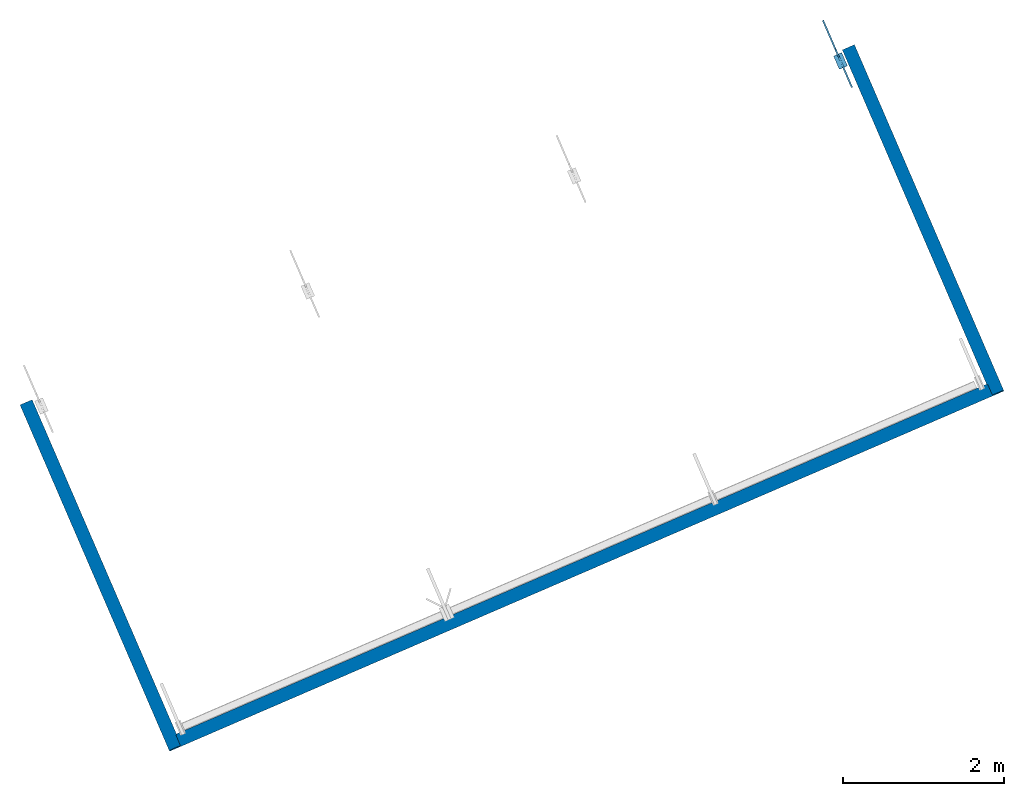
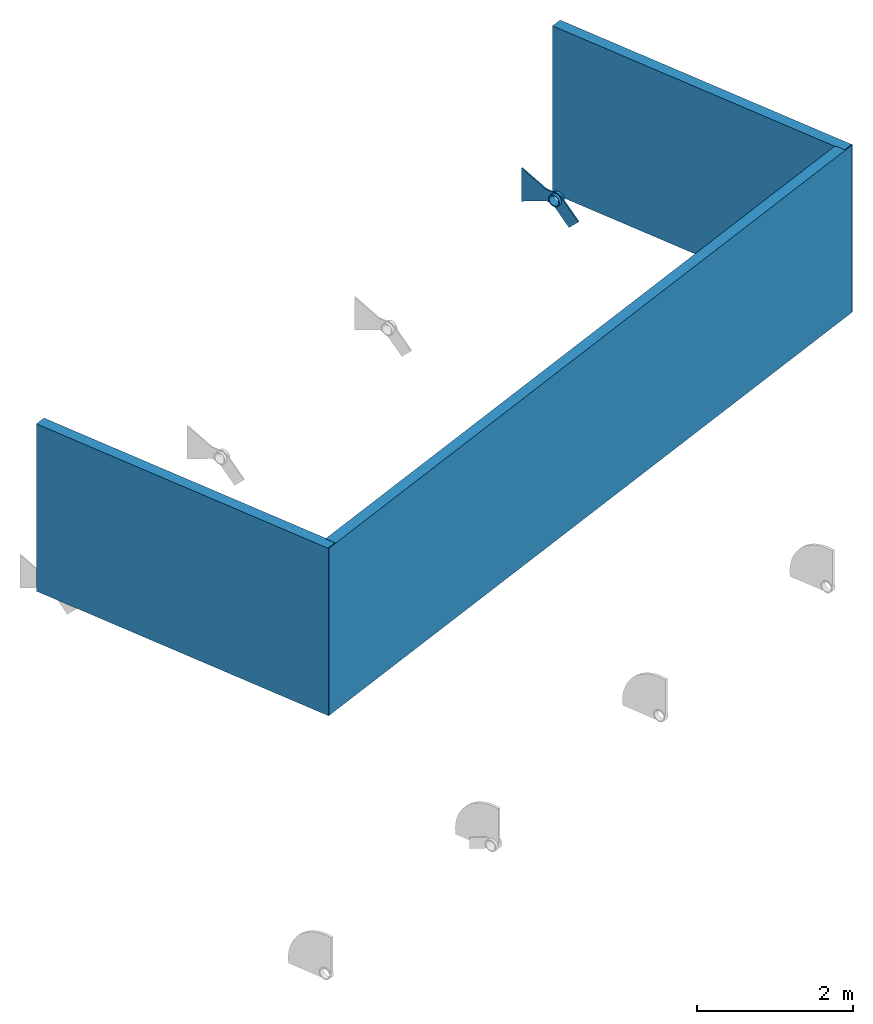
# One storey, part 4 of 5: 3 walls, 1 member.
"""IFC4 building model written with IfcOpenShell, lengths in metres."""

from ifc_helpers import new_model, entity, si_unit, converted_unit, derived_unit, direction, frame, origin, place, context, subcontext, project, spatial, indexed_curve, outline, extrude, polygons, source, transform, mapped, material, constituent, constituent_set, type_object, type_shapes, element, save


model = new_model("IFC4")

# Units and contexts
model_context = context("Model", 3, precision=1e-05, world=origin(), true_north=direction((6.12323399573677e-17, 1.0)))
body_context = subcontext(model_context, "Body", "Model", "MODEL_VIEW")
ifc_project = project(units=[si_unit("LENGTHUNIT", "METRE"), si_unit("AREAUNIT", "SQUARE_METRE"), si_unit("VOLUMEUNIT", "CUBIC_METRE"), converted_unit("PLANEANGLEUNIT", "DEGREE", entity("IfcPlaneAngleMeasure", 0.0174532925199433), si_unit("PLANEANGLEUNIT", "RADIAN"), dimensions=[0, 0, 0, 0, 0, 0, 0]), si_unit("MASSUNIT", "GRAM", prefix="KILO"), derived_unit("MOMENTOFINERTIAUNIT", [(si_unit("LENGTHUNIT", "METRE"), 4)]), derived_unit("LINEARFORCEUNIT", [(si_unit("MASSUNIT", "GRAM", prefix="KILO"), 1), (si_unit("TIMEUNIT", "SECOND"), -2)]), derived_unit("THERMALTRANSMITTANCEUNIT", [(si_unit("MASSUNIT", "GRAM", prefix="KILO"), 1), (si_unit("THERMODYNAMICTEMPERATUREUNIT", "KELVIN"), -1), (si_unit("TIMEUNIT", "SECOND"), -3)]), derived_unit("USERDEFINED", [(si_unit("MASSUNIT", "GRAM", prefix="KILO"), 1), (si_unit("TIMEUNIT", "SECOND"), -2), (si_unit("THERMODYNAMICTEMPERATUREUNIT", "KELVIN"), -1)]), derived_unit("THERMALRESISTANCEUNIT", [(si_unit("MASSUNIT", "GRAM", prefix="KILO"), -1), (si_unit("TIMEUNIT", "SECOND"), 3), (si_unit("THERMODYNAMICTEMPERATUREUNIT", "KELVIN"), 1)])], contexts=[model_context])

# Site, building, storey
site_placement = place(None, origin())
site = spatial("IfcSite", under=ifc_project, at=site_placement, Name="Default", CompositionType="ELEMENT")
building_placement = place(site_placement, frame((4.92348780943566, -84.5603392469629, 320.975), z_axis=(0.0, 0.0, 1.0), x_axis=(-0.396377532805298, 0.918087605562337, 0.0)))
building = spatial("IfcBuilding", under=site, at=building_placement, CompositionType="ELEMENT")
storey_placement = place(building_placement, frame((0.0, 0.0, 4.25)))
storey = spatial("IfcBuildingStorey", under=building, at=storey_placement, Name="Level 2", CompositionType="ELEMENT", Elevation=4.25)

# Member
ifc_material_1 = material(Name="<Unnamed>")
member_type = type_object("IfcMemberType", Name="Union Metalica 3:Union Metalica 3", PredefinedType="PLATE", material=ifc_material_1)
shared_shape = source(origin(), body_context, "Body", "Tessellation", [
    polygons([(-0.0550000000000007, -0.075, -2.42331686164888e-16), (-0.0550000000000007, -0.0724444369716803, 0.0194114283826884), (-0.0550000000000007, -0.0649519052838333, 0.0374999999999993), (-0.0550000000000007, -0.0530330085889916, 0.0530330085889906), (-0.0550000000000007, -0.0375000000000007, 0.0649519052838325), (-0.0550000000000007, -0.0194114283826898, 0.0724444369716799), (-0.0550000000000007, -8.1313785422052e-16, 0.075), (-0.0550000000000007, 0.0194114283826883, 0.0724444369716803), (-0.0550000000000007, 0.0374999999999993, 0.0649519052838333), (-0.0550000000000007, 0.0530330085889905, 0.0530330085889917), (-0.0550000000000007, 0.0649519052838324, 0.0375000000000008), (-0.0550000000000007, 0.0724444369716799, 0.01941142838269), (-0.0550000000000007, 0.075, 4.84663372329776e-16), (-0.010000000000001, 0.075, 5.51276753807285e-16), (-0.010000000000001, 0.07244443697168, 0.0194114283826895), (-0.010000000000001, 0.0649519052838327, 0.0375000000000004), (-0.010000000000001, 0.0530330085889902, 0.053033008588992), (-0.010000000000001, 0.039177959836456, 0.0639537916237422), (-0.010000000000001, 0.0231660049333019, 0.0713325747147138), (-0.010000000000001, 0.00587499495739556, 0.0747695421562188), (-0.010000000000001, -0.0117379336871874, 0.0740757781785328), (-0.010000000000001, -0.0287012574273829, 0.069290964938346), (-0.010000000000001, -0.0440795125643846, 0.0606794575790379), (-0.010000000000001, -0.0570242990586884, 0.0487158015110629), (-0.010000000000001, -0.06682058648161, 0.0340589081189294), (-0.010000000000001, -0.0729258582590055, 0.0175162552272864), (-0.010000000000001, -0.075, -2.09024995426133e-16), (-0.0550000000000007, -0.09, 2.90798023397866e-16), (-0.0550000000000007, -0.0869333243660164, -0.023293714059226), (-0.0550000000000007, -0.0779422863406, -0.0449999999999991), (-0.0550000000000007, -0.0636396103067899, -0.0636396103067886), (-0.0550000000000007, -0.0450000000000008, -0.077942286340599), (-0.0550000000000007, -0.0232937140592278, -0.0869333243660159), (-0.0550000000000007, -9.75765425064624e-16, -0.09), (-0.0550000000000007, 0.0232937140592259, -0.0869333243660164), (-0.0550000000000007, 0.0449999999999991, -0.0779422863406), (-0.0550000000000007, 0.0636396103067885, -0.06363961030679), (-0.0550000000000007, 0.0779422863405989, -0.045000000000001), (-0.0550000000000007, 0.0869333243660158, -0.0232937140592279), (-0.0550000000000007, 0.09, -5.81596046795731e-16), (-0.010000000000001, 0.09, -1.14114845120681e-15), (-0.010000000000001, 0.0873808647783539, -0.0215542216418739), (-0.010000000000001, 0.079677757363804, -0.0418503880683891), (-0.010000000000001, 0.0673410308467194, -0.0597091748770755), (-0.010000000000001, 0.0510895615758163, -0.0740935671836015), (-0.010000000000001, 0.0318689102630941, -0.0841687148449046), (-0.010000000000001, 0.0107964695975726, -0.0893500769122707), (-0.010000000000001, -0.0108991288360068, -0.0893376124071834), (-0.010000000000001, -0.0319573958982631, -0.0841351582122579), (-0.010000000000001, -0.0511587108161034, -0.0740458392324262), (-0.010000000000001, -0.0673877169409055, -0.0596564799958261), (-0.010000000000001, -0.0797022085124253, -0.041803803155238), (-0.010000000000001, -0.0873879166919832, -0.0215256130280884), (-0.010000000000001, -0.09, 2.5082999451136e-16), (-0.0550000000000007, 0.0869333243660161, 0.0232937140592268), (-0.0550000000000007, 0.0779422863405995, 0.045), (-0.0550000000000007, 0.0636396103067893, 0.0636396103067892), (-0.0550000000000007, 0.0450000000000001, 0.0779422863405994), (-0.0550000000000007, 0.023293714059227, 0.0869333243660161), (-0.0550000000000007, 1.2541499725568e-16, 0.09), (-0.0550000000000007, -0.0232937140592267, 0.0869333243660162), (-0.0550000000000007, -0.0449999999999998, 0.0779422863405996), (-0.0550000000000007, -0.0636396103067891, 0.0636396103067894), (-0.0550000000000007, -0.0779422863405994, 0.0450000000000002), (-0.0550000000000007, -0.0869333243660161, 0.0232937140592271), (-0.010000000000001, -0.0873808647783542, 0.0215542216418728), (-0.010000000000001, -0.0796777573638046, 0.0418503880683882), (-0.010000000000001, -0.0673410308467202, 0.0597091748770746), (-0.010000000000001, -0.0510895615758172, 0.0740935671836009), (-0.010000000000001, -0.0318689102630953, 0.0841687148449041), (-0.010000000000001, -0.0107964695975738, 0.0893500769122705), (-0.010000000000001, 0.0108991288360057, 0.0893376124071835), (-0.010000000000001, 0.0319573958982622, 0.0841351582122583), (-0.010000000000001, 0.0511587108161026, 0.0740458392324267), (-0.010000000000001, 0.0673877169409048, 0.0596564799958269), (-0.010000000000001, 0.0797022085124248, 0.0418038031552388), (-0.010000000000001, 0.0873879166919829, 0.0215256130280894), (-0.0550000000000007, 0.0724444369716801, -0.019411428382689), (-0.0550000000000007, 0.0649519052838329, -0.0375), (-0.0550000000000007, 0.0530330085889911, -0.053033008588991), (-0.0550000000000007, 0.0375000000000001, -0.0649519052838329), (-0.0550000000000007, 0.0194114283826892, -0.0724444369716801), (-0.0550000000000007, 1.04512497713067e-16, -0.075), (-0.0550000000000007, -0.019411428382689, -0.0724444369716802), (-0.0550000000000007, -0.0374999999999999, -0.064951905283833), (-0.0550000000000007, -0.0530330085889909, -0.0530330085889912), (-0.0550000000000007, -0.0649519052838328, -0.0375000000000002), (-0.0550000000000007, -0.0724444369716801, -0.0194114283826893), (-0.010000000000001, -0.0724444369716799, -0.0194114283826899), (-0.010000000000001, -0.0649519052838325, -0.0375000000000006), (-0.010000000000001, -0.053033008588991, -0.0530330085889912), (-0.010000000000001, -0.0391779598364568, -0.0639537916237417), (-0.010000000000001, -0.0231660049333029, -0.0713325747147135), (-0.010000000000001, -0.0058749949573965, -0.0747695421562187), (-0.010000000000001, 0.0117379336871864, -0.0740757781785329), (-0.010000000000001, 0.0287012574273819, -0.0692909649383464), (-0.010000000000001, 0.0440795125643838, -0.0606794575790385), (-0.010000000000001, 0.0570242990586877, -0.0487158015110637), (-0.010000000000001, 0.0668205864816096, -0.0340589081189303), (-0.010000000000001, 0.0729258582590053, -0.0175162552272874), (0.00999999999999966, -0.357088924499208, -0.20859650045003), (0.00999999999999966, -0.208596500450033, -0.357088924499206), (0.00999999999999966, 0.0584924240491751, -0.0899999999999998), (0.00999999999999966, 0.16, -0.0899999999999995), (0.00999999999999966, 0.55, -0.26), (0.00999999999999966, 0.55, 0.26), (0.00999999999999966, 0.16, 0.0899999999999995), (0.00999999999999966, 0.0540832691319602, 0.0899999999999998), (0.00999999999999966, 0.0330234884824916, 0.099671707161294), (0.00999999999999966, 0.0103677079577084, 0.104486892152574), (0.00999999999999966, -0.0127869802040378, 0.104218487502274), (0.00999999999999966, -0.0353212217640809, 0.0988807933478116), (0.00999999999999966, -0.0561366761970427, 0.0887337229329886), (0.00999999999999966, -0.0742462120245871, 0.0742462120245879), (0.00999999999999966, -0.09, -2.03037586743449e-16), (0.00999999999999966, -0.0873808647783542, 0.0215542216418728), (0.00999999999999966, -0.0796777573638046, 0.0418503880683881), (0.00999999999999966, -0.0673410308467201, 0.0597091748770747), (0.00999999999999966, -0.0510895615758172, 0.0740935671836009), (0.00999999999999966, -0.0318689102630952, 0.0841687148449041), (0.00999999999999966, -0.0107964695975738, 0.0893500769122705), (0.00999999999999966, 0.0108991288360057, 0.0893376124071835), (0.00999999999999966, 0.0319573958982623, 0.0841351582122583), (0.00999999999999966, 0.0511587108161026, 0.0740458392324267), (0.00999999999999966, 0.0673877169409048, 0.0596564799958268), (0.00999999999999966, 0.0797022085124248, 0.0418038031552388), (0.00999999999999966, 0.0873879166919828, 0.0215256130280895), (0.00999999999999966, 0.0900000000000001, -5.41433564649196e-16), (0.00999999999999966, 0.087380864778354, -0.0215542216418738), (0.00999999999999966, 0.079677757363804, -0.0418503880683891), (0.00999999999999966, 0.0673410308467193, -0.0597091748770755), (0.00999999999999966, 0.0510895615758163, -0.0740935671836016), (0.00999999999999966, 0.0318689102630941, -0.0841687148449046), (0.00999999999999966, 0.0107964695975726, -0.0893500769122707), (0.00999999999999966, -0.0108991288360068, -0.0893376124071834), (0.00999999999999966, -0.0319573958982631, -0.0841351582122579), (0.00999999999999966, -0.0511587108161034, -0.0740458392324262), (0.00999999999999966, -0.0673877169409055, -0.0596564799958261), (0.00999999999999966, -0.0797022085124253, -0.041803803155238), (0.00999999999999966, -0.0873879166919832, -0.0215256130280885), (-0.010000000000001, -0.357088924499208, -0.20859650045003), (-0.010000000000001, -0.0742462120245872, 0.0742462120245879), (-0.010000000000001, -0.0561366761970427, 0.0887337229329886), (-0.010000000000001, -0.035321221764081, 0.0988807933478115), (-0.010000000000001, -0.0127869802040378, 0.104218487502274), (-0.010000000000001, 0.0103677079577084, 0.104486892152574), (-0.010000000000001, 0.0330234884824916, 0.099671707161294), (-0.010000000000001, 0.0540832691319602, 0.0899999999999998), (-0.010000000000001, 0.16, 0.0899999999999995), (-0.010000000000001, 0.55, 0.26), (-0.010000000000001, 0.55, -0.26), (-0.010000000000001, 0.16, -0.0899999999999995), (-0.010000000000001, 0.058492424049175, -0.0899999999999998), (-0.010000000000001, -0.208596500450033, -0.357088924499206), (0.00999999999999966, -0.053033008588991, -0.0530330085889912), (0.00999999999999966, 0.0530330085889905, 0.0530330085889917), (0.00999999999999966, 0.0391779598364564, 0.063953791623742), (0.00999999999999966, 0.0231660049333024, 0.0713325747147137), (0.00999999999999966, 0.00587499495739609, 0.0747695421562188), (0.00999999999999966, -0.0117379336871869, 0.0740757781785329), (0.00999999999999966, -0.0287012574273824, 0.0692909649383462), (0.00999999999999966, -0.0440795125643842, 0.0606794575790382), (0.00999999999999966, -0.057024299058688, 0.0487158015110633), (0.00999999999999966, -0.0668205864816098, 0.0340589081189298), (0.00999999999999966, -0.0729258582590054, 0.0175162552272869), (0.00999999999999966, -0.075, -6.10054503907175e-16), (0.00999999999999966, -0.0724444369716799, -0.0194114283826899), (0.00999999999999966, -0.0649519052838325, -0.0375000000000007), (0.00999999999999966, -0.0391779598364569, -0.0639537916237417), (0.00999999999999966, -0.0231660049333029, -0.0713325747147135), (0.00999999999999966, -0.0058749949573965, -0.0747695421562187), (0.00999999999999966, 0.0117379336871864, -0.0740757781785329), (0.00999999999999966, 0.0287012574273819, -0.0692909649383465), (0.00999999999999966, 0.0440795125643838, -0.0606794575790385), (0.00999999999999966, 0.0570242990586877, -0.0487158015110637), (0.00999999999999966, 0.0668205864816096, -0.0340589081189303), (0.00999999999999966, 0.0729258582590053, -0.0175162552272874), (0.00999999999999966, 0.075, 6.85693198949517e-17), (0.00999999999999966, 0.0724444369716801, 0.0194114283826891), (0.00999999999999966, 0.0649519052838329, 0.0375), (0.0549999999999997, -0.09, 2.90798023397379e-16), (0.0549999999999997, -0.0869333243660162, -0.0232937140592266), (0.0549999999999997, -0.0779422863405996, -0.0449999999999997), (0.0549999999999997, -0.0636396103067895, -0.063639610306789), (0.0549999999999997, -0.0450000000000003, -0.0779422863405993), (0.0549999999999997, -0.0232937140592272, -0.086933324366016), (0.0549999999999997, -4.22994972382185e-16, -0.09), (0.0549999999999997, 0.0232937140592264, -0.0869333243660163), (0.0549999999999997, 0.0449999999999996, -0.0779422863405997), (0.0549999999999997, 0.0636396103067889, -0.0636396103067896), (0.0549999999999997, 0.0779422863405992, -0.0450000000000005), (0.0549999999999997, 0.086933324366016, -0.0232937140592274), (0.0549999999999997, 0.09, -4.92430958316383e-28), (0.0549999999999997, 0.0869333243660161, 0.0232937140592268), (0.0549999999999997, 0.0779422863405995, 0.045), (0.0549999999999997, 0.0636396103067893, 0.0636396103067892), (0.0549999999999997, 0.0450000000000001, 0.0779422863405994), (0.0549999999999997, 0.023293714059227, 0.0869333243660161), (0.0549999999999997, 1.18438592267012e-16, 0.09), (0.0549999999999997, -0.0232937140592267, 0.0869333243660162), (0.0549999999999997, -0.0449999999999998, 0.0779422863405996), (0.0549999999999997, -0.0636396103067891, 0.0636396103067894), (0.0549999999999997, -0.0779422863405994, 0.0450000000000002), (0.0549999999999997, -0.0869333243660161, 0.0232937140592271), (0.0549999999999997, -0.075, -2.42331686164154e-16), (0.0549999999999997, -0.0724444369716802, 0.0194114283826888), (0.0549999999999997, -0.064951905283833, 0.0374999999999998), (0.0549999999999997, -0.0530330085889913, 0.0530330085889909), (0.0549999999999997, -0.0375000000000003, 0.0649519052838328), (0.0549999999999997, -0.0194114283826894, 0.07244443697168), (0.0549999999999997, -3.38395977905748e-16, 0.075), (0.0549999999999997, 0.0194114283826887, 0.0724444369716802), (0.0549999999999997, 0.0374999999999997, 0.0649519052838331), (0.0549999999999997, 0.0530330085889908, 0.0530330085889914), (0.0549999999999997, 0.0649519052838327, 0.0375000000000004), (0.0549999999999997, 0.07244443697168, 0.0194114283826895), (0.0549999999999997, 0.075, -4.92430958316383e-28), (0.0549999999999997, 0.0724444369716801, -0.019411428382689), (0.0549999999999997, 0.0649519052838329, -0.0375), (0.0549999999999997, 0.0530330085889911, -0.053033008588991), (0.0549999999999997, 0.0375000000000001, -0.0649519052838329), (0.0549999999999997, 0.0194114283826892, -0.0724444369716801), (0.0549999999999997, 1.01518793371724e-16, -0.075), (0.0549999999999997, -0.0194114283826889, -0.0724444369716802), (0.0549999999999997, -0.0374999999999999, -0.064951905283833), (0.0549999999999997, -0.0530330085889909, -0.0530330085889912), (0.0549999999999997, -0.0649519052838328, -0.0375000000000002), (0.0549999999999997, -0.0724444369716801, -0.0194114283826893)], [[[27, 1, 26, 165, 205, 166]], [[26, 2, 25]], [[23, 24, 4]], [[3, 24, 25]], [[22, 23, 5]], [[2, 3, 25]], [[26, 1, 2]], [[7, 21, 6]], [[22, 5, 6]], [[5, 23, 4]], [[24, 3, 4]], [[22, 6, 21]], [[20, 8, 19]], [[19, 9, 18]], [[15, 179, 216, 215, 180, 16, 11, 12]], [[16, 180, 215, 214, 156, 17, 10, 11]], [[12, 13, 14, 178, 217, 216, 179, 15]], [[18, 10, 17, 156, 214, 157]], [[7, 8, 20]], [[8, 9, 19]], [[9, 10, 18]], [[21, 7, 20]], [[29, 53, 28]], [[30, 52, 29]], [[50, 31, 32]], [[30, 31, 51]], [[49, 32, 33]], [[29, 52, 53]], [[53, 54, 28]], [[115, 140, 181]], [[49, 50, 32]], [[51, 31, 50]], [[51, 52, 30]], [[48, 49, 33]], [[33, 34, 48]], [[35, 47, 34]], [[36, 46, 35]], [[44, 37, 38]], [[39, 40, 42]], [[36, 37, 45]], [[43, 38, 39]], [[36, 45, 46]], [[46, 47, 35]], [[41, 42, 40]], [[129, 128, 193]], [[45, 37, 44]], [[43, 44, 38]], [[42, 43, 39]], [[34, 47, 48]], [[55, 77, 40]], [[56, 76, 55]], [[74, 57, 58]], [[56, 57, 75]], [[73, 58, 59]], [[55, 76, 77]], [[77, 41, 40]], [[128, 127, 193]], [[73, 74, 58]], [[75, 57, 74]], [[75, 76, 56]], [[72, 73, 59]], [[59, 60, 72]], [[71, 60, 61]], [[70, 61, 62]], [[64, 65, 67]], [[68, 63, 64]], [[62, 63, 69]], [[66, 65, 28]], [[70, 71, 61]], [[69, 70, 62]], [[69, 63, 68]], [[64, 67, 68]], [[66, 67, 65]], [[28, 54, 66]], [[116, 115, 181]], [[60, 71, 72]], [[14, 13, 100, 177, 217, 178]], [[100, 78, 99]], [[97, 98, 80]], [[79, 98, 99]], [[96, 97, 81]], [[78, 79, 99]], [[100, 13, 78]], [[83, 95, 82]], [[96, 81, 82]], [[81, 97, 80]], [[98, 79, 80]], [[96, 82, 95]], [[92, 93, 85]], [[84, 93, 94]], [[87, 88, 89, 167, 228, 227, 168, 90]], [[90, 168, 227, 226, 155, 91, 86, 87]], [[91, 155, 226, 169, 92, 86]], [[27, 166, 205, 228, 167, 89, 88, 1]], [[94, 83, 84]], [[85, 93, 84]], [[86, 92, 85]], [[95, 83, 94]], [[114, 101, 102, 103, 104, 105, 106, 107, 108, 109, 110, 111, 112, 113], [118, 119, 120, 121, 122, 123, 124, 125, 126, 127, 128, 129, 130, 131, 132, 133, 134, 135, 136, 137, 138, 139, 140, 115, 116, 117]], [[189, 190, 191, 192, 193, 194, 195, 196, 197, 198, 199, 200, 201, 202, 203, 204, 181, 182, 183, 184, 185, 186, 187, 188], [221, 222, 223, 224, 225, 226, 227, 228, 205, 206, 207, 208, 209, 210, 211, 212, 213, 214, 215, 216, 217, 218, 219, 220]], [[153, 154, 141, 142, 143, 144, 145, 146, 147, 148, 149, 150, 151, 152], [46, 45, 44, 43, 42, 41, 77, 76, 75, 74, 73, 72, 71, 70, 69, 68, 67, 66, 54, 53, 52, 51, 50, 49, 48, 47]], [[58, 57, 56, 55, 40, 39, 38, 37, 36, 35, 34, 33, 32, 31, 30, 29, 28, 65, 64, 63, 62, 61, 60, 59], [9, 8, 7, 6, 5, 4, 3, 2, 1, 88, 87, 86, 85, 84, 83, 82, 81, 80, 79, 78, 13, 12, 11, 10]], [[102, 101, 141, 154]], [[103, 102, 154, 153]], [[109, 108, 148, 147]], [[110, 109, 147, 146]], [[111, 110, 146, 145]], [[112, 111, 145, 144]], [[113, 112, 144, 143]], [[114, 113, 143, 142]], [[101, 114, 142, 141]], [[25, 164, 165, 26]], [[164, 25, 24, 163]], [[24, 23, 162, 163]], [[162, 23, 22, 161]], [[161, 22, 21, 160]], [[158, 159, 20, 19]], [[18, 157, 158, 19]], [[20, 159, 160, 21]], [[99, 176, 177, 100]], [[176, 99, 98, 175]], [[98, 97, 174, 175]], [[174, 97, 96, 173]], [[173, 96, 95, 172]], [[170, 171, 94, 93]], [[92, 169, 170, 93]], [[94, 171, 172, 95]], [[139, 138, 183]], [[140, 139, 182]], [[136, 135, 186]], [[137, 136, 185]], [[138, 137, 184]], [[140, 182, 181]], [[183, 138, 184]], [[139, 183, 182]], [[185, 184, 137]], [[136, 186, 185]], [[135, 187, 186]], [[133, 132, 189]], [[134, 133, 188]], [[130, 129, 192]], [[191, 131, 130]], [[131, 190, 132]], [[133, 189, 188]], [[188, 187, 134]], [[193, 192, 129]], [[190, 189, 132]], [[191, 190, 131]], [[130, 192, 191]], [[134, 187, 135]], [[126, 125, 195]], [[127, 126, 194]], [[123, 122, 198]], [[124, 123, 197]], [[125, 124, 196]], [[127, 194, 193]], [[195, 125, 196]], [[126, 195, 194]], [[197, 196, 124]], [[123, 198, 197]], [[122, 199, 198]], [[200, 121, 120]], [[119, 201, 120]], [[202, 119, 118]], [[203, 118, 117]], [[204, 117, 116]], [[200, 199, 121]], [[201, 200, 120]], [[202, 118, 203]], [[203, 117, 204]], [[201, 119, 202]], [[181, 204, 116]], [[121, 199, 122]], [[205, 165, 206]], [[206, 164, 207]], [[209, 208, 162]], [[163, 208, 207]], [[210, 209, 161]], [[165, 164, 206]], [[209, 162, 161]], [[162, 208, 163]], [[207, 164, 163]], [[210, 161, 160]], [[160, 211, 210]], [[212, 211, 159]], [[212, 158, 213]], [[214, 213, 157]], [[158, 157, 213]], [[212, 159, 158]], [[160, 159, 211]], [[217, 177, 218]], [[218, 176, 219]], [[221, 220, 174]], [[175, 220, 219]], [[222, 221, 173]], [[177, 176, 218]], [[221, 174, 173]], [[174, 220, 175]], [[219, 176, 175]], [[222, 173, 172]], [[172, 223, 222]], [[225, 224, 170]], [[171, 224, 223]], [[169, 226, 225]], [[224, 171, 170]], [[169, 225, 170]], [[172, 171, 223]], [[107, 106, 150, 149]], [[108, 107, 149, 148]], [[104, 103, 153, 152]], [[105, 104, 152, 151]], [[106, 105, 151, 150]]], closed=True),
])
type_shapes(member_type, [shared_shape])
member_placement = place(storey_placement, frame((2.27316058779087, -5.08882295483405, 0.0), z_axis=(0.0, 0.0, 1.0), x_axis=(0.0, -1.0, 0.0)))
element("IfcMember", 1, at=member_placement, inside=storey, type_object=member_type, material=ifc_material_1, Name="Union Metalica 3:Union Metalica 3", ObjectType="Union Metalica 3:Union Metalica 3", PredefinedType="PLATE", context=body_context, shape_type="MappedRepresentation", body=[
    mapped(shared_shape, transform((0.0, 0.0, 0.0), scale=1.0)),
])

# Walls
ifc_material_2 = material(Name="Tablero de muro de yeso", Category="Genérico")
ifc_constituent_1 = constituent(ifc_material_2, Name="Tablero de muro de yeso", Category="Genérico", fraction=0.0731707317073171)
ifc_material_3 = material(Name="Bloques de hormigón", Category="Albañilería")
ifc_constituent_2 = constituent(ifc_material_3, Name="Bloques de hormigón", Category="Albañilería", fraction=0.853658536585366)
ifc_constituent_3 = constituent(ifc_material_2, Name="Tablero de muro de yeso (2)", Category="Genérico", fraction=0.0731707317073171)
ifc_constituent_set = constituent_set(constituents=[ifc_constituent_1, ifc_constituent_2, ifc_constituent_3], Name="Basic Wall:Interior - bloques 140 mm")
wall_type = type_object("IfcWallType", Name="Basic Wall:Interior - bloques 140 mm", PredefinedType="STANDARD", material=ifc_constituent_set)
wall_1_placement = place(storey_placement, frame((-2.29083941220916, -5.24582295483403, 0.0)))
element("IfcWall", 2, at=wall_1_placement, inside=storey, type_object=wall_type, material=ifc_constituent_set, Name="Basic Wall:Interior - bloques 140 mm", ObjectType="Basic Wall:Interior - bloques 140 mm", PredefinedType="NOTDEFINED", context=body_context, shape_type="SweptSolid", body=[
    extrude(outline(indexed_curve([(-0.0060000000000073, -2.341), (0.00599999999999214, -2.341), (0.0060000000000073, 2.341), (-0.00599999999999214, 2.341), (-0.0060000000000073, -2.341)], self_intersect=False)), frame((2.341, -0.0760000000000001, 0.0), z_axis=(0.0, 0.0, 1.0), x_axis=(0.0, 1.0, 0.0)), (0.0, 0.0, 1.0), 2.62499999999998),
    extrude(outline(indexed_curve([(-2.335, -0.0700000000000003), (2.335, -0.0700000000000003), (2.335, 0.0700000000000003), (-2.335, 0.0700000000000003), (-2.335, -0.0700000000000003)], self_intersect=False)), frame((2.347, 0.0, 0.0)), (0.0, 0.0, 1.0), 2.62499999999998),
    extrude(outline(indexed_curve([(1.8024, -0.00480000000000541), (1.8144, -0.00480000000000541), (1.8144, 0.00719999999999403), (-2.7156, 0.00720000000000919), (-2.7156, -0.00479999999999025), (1.8024, -0.00480000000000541)], self_intersect=False)), frame((1.9664, 0.0772000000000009, 0.0), z_axis=(0.0, 0.0, 1.0), x_axis=(-1.0, 0.0, 0.0)), (0.0, 0.0, 1.0), 2.62499999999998),
])
wall_2_placement = place(storey_placement, frame((-2.29083941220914, 5.86817704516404, 0.0)))
element("IfcWall", 3, at=wall_2_placement, inside=storey, type_object=wall_type, material=ifc_constituent_set, Name="Basic Wall:Interior - bloques 140 mm", ObjectType="Basic Wall:Interior - bloques 140 mm", PredefinedType="NOTDEFINED", context=body_context, shape_type="SweptSolid", body=[
    extrude(outline(indexed_curve([(-1.8024, -0.00479999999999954), (2.7156, -0.00479999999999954), (2.7156, 0.00719999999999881), (-1.8144, 0.00719999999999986), (-1.8144, -0.00479999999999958), (-1.8024, -0.00479999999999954)], self_intersect=False)), frame((1.9664, -0.0771999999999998, 0.0)), (0.0, 0.0, 1.0), 2.62499999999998),
    extrude(outline(indexed_curve([(-2.335, -0.0699999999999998), (2.335, -0.0699999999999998), (2.335, 0.0700000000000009), (-2.335, 0.0700000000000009), (-2.335, -0.0699999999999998)], self_intersect=False)), frame((2.347, 0.0, 0.0)), (0.0, 0.0, 1.0), 2.62499999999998),
    extrude(outline(indexed_curve([(-0.0060000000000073, -2.341), (0.00599999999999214, -2.341), (0.00600000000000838, 2.341), (-0.00599999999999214, 2.341), (-0.0060000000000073, -2.341)], self_intersect=False)), frame((2.341, 0.0760000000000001, 0.0), z_axis=(0.0, 0.0, 1.0), x_axis=(0.0, -1.0, 0.0)), (0.0, 0.0, 1.0), 2.62499999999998),
])
wall_3_placement = place(storey_placement, frame((-2.20883941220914, 5.78617704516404, 0.0), z_axis=(0.0, 0.0, 1.0), x_axis=(0.0, -1.0, 0.0)))
element("IfcWall", 4, at=wall_3_placement, inside=storey, type_object=wall_type, material=ifc_constituent_set, Name="Basic Wall:Interior - bloques 140 mm", ObjectType="Basic Wall:Interior - bloques 140 mm", PredefinedType="NOTDEFINED", context=body_context, shape_type="SweptSolid", body=[
    extrude(outline(indexed_curve([(-0.00600000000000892, -5.62699999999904), (0.00599999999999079, -5.62699999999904), (0.00600000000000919, 5.62699999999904), (-0.00599999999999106, 5.62699999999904), (-0.00600000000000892, -5.62699999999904)], self_intersect=False)), frame((5.47499999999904, -0.0760000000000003, 0.0), z_axis=(0.0, 0.0, 1.0), x_axis=(0.0, 1.0, 0.0)), (0.0, 0.0, 1.0), 2.62499999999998),
    extrude(outline(indexed_curve([(-5.48699999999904, -0.0699999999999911), (5.48699999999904, -0.0700000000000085), (5.48699999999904, 0.0699999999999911), (-5.48699999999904, 0.070000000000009), (-5.48699999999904, -0.0699999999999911)], self_intersect=False)), frame((5.47499999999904, 0.0, 0.0)), (0.0, 0.0, 1.0), 2.62499999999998),
    extrude(outline(indexed_curve([(-0.00600000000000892, -5.47499999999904), (0.00599999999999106, -5.47499999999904), (0.00600000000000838, 5.47499999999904), (-0.00599999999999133, 5.47499999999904), (-0.00600000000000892, -5.47499999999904)], self_intersect=False)), frame((5.47499999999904, 0.0759999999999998, 0.0), z_axis=(0.0, 0.0, 1.0), x_axis=(0.0, -1.0, 0.0)), (0.0, 0.0, 1.0), 2.62499999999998),
])

save(model, "model.ifc")
